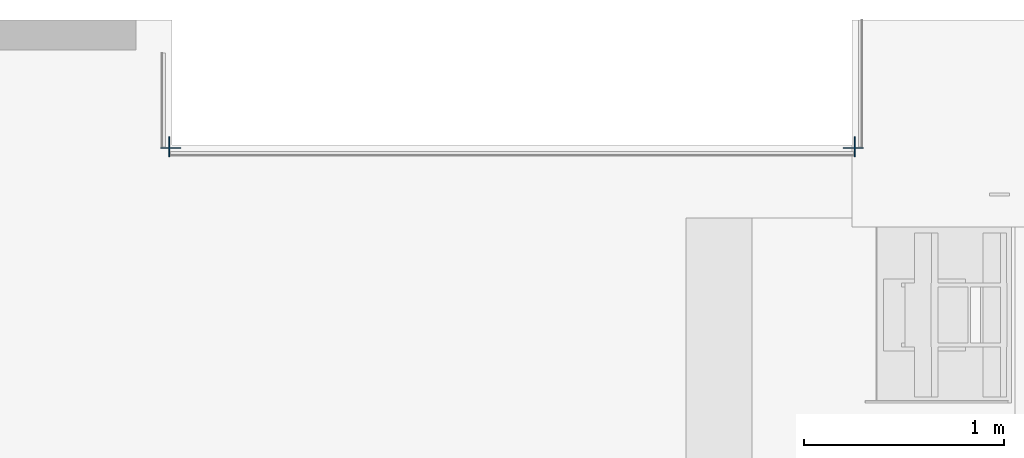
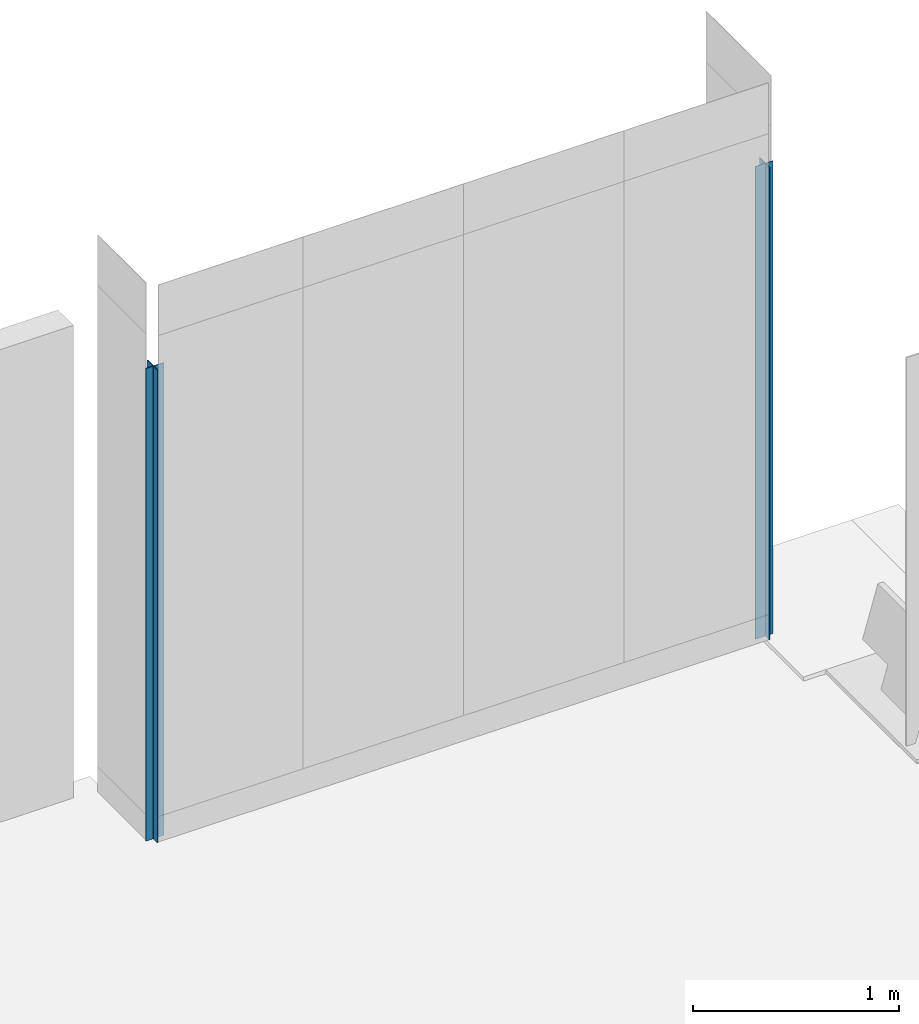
# One storey, part 3 of 14: 2 columns.
"""IFC2X3 building model written with IfcOpenShell, lengths in millimetres."""

from ifc_helpers import new_model, entity, si_unit, converted_unit, derived_unit, direction, frame, frame_2d, origin, origin_with_axes, place, context, subcontext, project, spatial, polyline, circle_curve, parameter, trimmed, segment, composite_curve, outline, extrude, source, transform, mapped, material, type_object, element, save


model = new_model("IFC2X3")

# Units and contexts
model_context = context("Model", 3, precision=0.01, world=frame((0.0, 4.29681676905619e-09, 0.0)), true_north=direction((4.01073788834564e-13, 1.0)))
plan_context = context("Plan", 3, precision=0.01, world=frame((0.0, 4.29681676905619e-09, 0.0)), true_north=direction((4.01073788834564e-13, 1.0)))
body_context = subcontext(model_context, "Body", "Model", "MODEL_VIEW")
ifc_project = project(units=[converted_unit("PLANEANGLEUNIT", "DEGREE", entity("IfcPositiveLengthMeasure", 0.0174532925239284), si_unit("PLANEANGLEUNIT", "RADIAN"), dimensions=[0, 0, 0, 0, 0, 0, 0]), si_unit("AREAUNIT", "SQUARE_METRE"), si_unit("LENGTHUNIT", "METRE", prefix="MILLI"), si_unit("MASSUNIT", "GRAM", prefix="KILO"), si_unit("POWERUNIT", "WATT"), si_unit("PRESSUREUNIT", "PASCAL"), si_unit("FORCEUNIT", "NEWTON", prefix="KILO"), si_unit("ELECTRICVOLTAGEUNIT", "VOLT"), si_unit("ELECTRICCURRENTUNIT", "AMPERE"), si_unit("THERMODYNAMICTEMPERATUREUNIT", "DEGREE_CELSIUS"), si_unit("TIMEUNIT", "SECOND"), si_unit("VOLUMEUNIT", "CUBIC_METRE"), derived_unit("LINEARVELOCITYUNIT", [(si_unit("LENGTHUNIT", "METRE"), 1), (si_unit("TIMEUNIT", "SECOND"), -1)]), derived_unit("VOLUMETRICFLOWRATEUNIT", [(si_unit("VOLUMEUNIT", "CUBIC_METRE"), 1), (si_unit("TIMEUNIT", "SECOND"), -1)]), derived_unit("THERMALTRANSMITTANCEUNIT", [(si_unit("POWERUNIT", "WATT"), 1), (si_unit("THERMODYNAMICTEMPERATUREUNIT", "KELVIN"), -1), (si_unit("AREAUNIT", "SQUARE_METRE"), -1)]), derived_unit("SOUNDPRESSUREUNIT", [(si_unit("PRESSUREUNIT", "PASCAL"), 1)])], contexts=[model_context, plan_context])

# Site, building, storey
site_placement = place(None, origin_with_axes())
site = spatial("IfcSite", under=ifc_project, at=site_placement, Name="ENGM", CompositionType="ELEMENT")
building_placement = place(site_placement, origin_with_axes())
building = spatial("IfcBuilding", under=site, at=building_placement, Name="TI", CompositionType="ELEMENT")
storey_placement = place(building_placement, frame((0.0, 0.0, 210900.0), z_axis=(0.0, 0.0, 1.0), x_axis=(1.0, 0.0, 0.0)))
storey = spatial("IfcBuildingStorey", under=building, at=storey_placement, Name="Nivå F", CompositionType="ELEMENT", Elevation=210900.0)

# Columns
ifc_material = material(Name="_NSW Aluminium")
column_type_1 = type_object("IfcColumnType", Name="A222 - Ekstrudert Aluminiumsprofil - Hjørneprofil - Hel:A222 - Ekstrudert Aluminiumsprofil", PredefinedType="COLUMN", material=ifc_material)
shared_shape_1 = source(origin(), body_context, "Body", "SweptSolid", [
    extrude(outline(composite_curve([segment(polyline([(-42.1761976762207, 2.82981407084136), (-42.1761976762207, 1.78160499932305)]), True, "CONTINUOUS"), segment(trimmed(circle_curve(frame_2d((-39.2244067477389, 1.78160499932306), x_axis=(0.0, -1.0)), 2.95179092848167), [parameter(270.0)], [parameter(3.05333249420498e-13)], True, "PARAMETER"), True, "CONTINUOUS"), segment(polyline([(-39.2244067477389, -1.17018592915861), (-2.17494075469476, -1.1701859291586)]), True, "CONTINUOUS"), segment(trimmed(circle_curve(frame_2d((-2.17494075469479, -2.16892900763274), x_axis=(0.0, -1.0)), 0.998743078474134), [parameter(90.0000000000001)], [parameter(180.0)], True, "PARAMETER"), False, "CONTINUOUS"), segment(polyline([(-1.17619767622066, -2.16892900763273), (-1.17619767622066, -39.1789731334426)]), True, "CONTINUOUS"), segment(trimmed(circle_curve(frame_2d((1.81501511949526, -39.1789731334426), x_axis=(0.0, -1.0)), 2.99121279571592), [parameter(270.0)], [parameter(3.56222124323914e-13)], True, "PARAMETER"), True, "CONTINUOUS"), segment(polyline([(1.81501511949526, -42.1701859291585), (2.82380232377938, -42.1701859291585)]), True, "CONTINUOUS"), segment(polyline([(2.82380232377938, -42.1701859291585), (2.82380232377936, -2.20446749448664)]), True, "CONTINUOUS"), segment(trimmed(circle_curve(frame_2d((3.85808388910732, -2.20446749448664), x_axis=(0.0, -1.0)), 1.03428156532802), [parameter(180.0)], [parameter(270.0)], True, "PARAMETER"), False, "CONTINUOUS"), segment(polyline([(3.85808388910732, -1.17018592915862), (57.8238023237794, -1.1701859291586)]), True, "CONTINUOUS"), segment(polyline([(57.8238023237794, -1.1701859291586), (57.8238023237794, 2.82981407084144)]), True, "CONTINUOUS"), segment(polyline([(57.8238023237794, 2.82981407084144), (2.82380232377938, 2.82981407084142)]), True, "CONTINUOUS"), segment(polyline([(2.82380232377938, 2.82981407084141), (2.82380232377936, 57.8298140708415)]), True, "CONTINUOUS"), segment(polyline([(2.82380232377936, 57.8298140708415), (-1.17619767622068, 57.8298140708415)]), True, "CONTINUOUS"), segment(polyline([(-1.17619767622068, 57.8298140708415), (-1.17619767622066, 3.81299578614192)]), True, "CONTINUOUS"), segment(trimmed(circle_curve(frame_2d((-2.15937939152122, 3.81299578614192), x_axis=(0.0, -1.0)), 0.983181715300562), [parameter(0.0)], [parameter(90.0000000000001)], True, "PARAMETER"), False, "CONTINUOUS"), segment(polyline([(-2.15937939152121, 2.82981407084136), (-42.1761976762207, 2.82981407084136)]), True, "CONTINUOUS")], self_intersect=False)), frame((17.8298140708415, 17.8238023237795, 210900.0), z_axis=(0.0, 0.0, -1.0), x_axis=(0.0, -1.0, 0.0)), (0.0, 0.0, -1.0), 2799.99999999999),
])
column_1_placement = place(storey_placement, frame((607902.006836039, 698851.99999989, -210900.0), z_axis=(0.0, 0.0, 1.0), x_axis=(-1.0, 0.0, 0.0)))
element("IfcColumn", 1, at=column_1_placement, inside=storey, type_object=column_type_1, material=ifc_material, Name="A222 - Ekstrudert Aluminiumsprofil - Hjørneprofil - Hel:A222 - Ekstrudert Aluminiumsprofil", ObjectType="A222 - Ekstrudert Aluminiumsprofil - Hjørneprofil - Hel:A222 - Ekstrudert Aluminiumsprofil", context=body_context, shape_type="MappedRepresentation", body=[
    mapped(shared_shape_1, transform((0.0, 0.0, 0.0), scale=1.0)),
])
column_type_2 = type_object("IfcColumnType", Name="A222 - Ekstrudert Aluminiumsprofil - Hjørneprofil - Hel:A222 - Ekstrudert Aluminiumsprofil", PredefinedType="COLUMN", material=ifc_material)
shared_shape_2 = source(origin(), body_context, "Body", "SweptSolid", [
    extrude(outline(composite_curve([segment(polyline([(-2.82981407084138, -42.1761976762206), (-1.78160499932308, -42.1761976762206)]), True, "CONTINUOUS"), segment(trimmed(circle_curve(frame_2d((-1.78160499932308, -39.2244067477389), x_axis=(1.0, 0.0)), 2.95179092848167), [parameter(270.0)], [parameter(3.05333249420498e-13)], True, "PARAMETER"), True, "CONTINUOUS"), segment(polyline([(1.17018592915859, -39.2244067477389), (1.17018592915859, -2.17494075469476)]), True, "CONTINUOUS"), segment(trimmed(circle_curve(frame_2d((2.16892900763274, -2.17494075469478), x_axis=(1.0, 0.0)), 0.998743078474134), [parameter(90.0000000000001)], [parameter(180.0)], True, "PARAMETER"), False, "CONTINUOUS"), segment(polyline([(2.16892900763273, -1.17619767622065), (39.1789731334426, -1.17619767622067)]), True, "CONTINUOUS"), segment(trimmed(circle_curve(frame_2d((39.1789731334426, 1.81501511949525), x_axis=(1.0, 0.0)), 2.99121279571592), [parameter(270.0)], [parameter(3.56222124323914e-13)], True, "PARAMETER"), True, "CONTINUOUS"), segment(polyline([(42.1701859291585, 1.81501511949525), (42.1701859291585, 2.82380232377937)]), True, "CONTINUOUS"), segment(polyline([(42.1701859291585, 2.82380232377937), (2.20446749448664, 2.82380232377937)]), True, "CONTINUOUS"), segment(trimmed(circle_curve(frame_2d((2.20446749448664, 3.85808388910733), x_axis=(1.0, 0.0)), 1.03428156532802), [parameter(180.0)], [parameter(270.0)], True, "PARAMETER"), False, "CONTINUOUS"), segment(polyline([(1.17018592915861, 3.85808388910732), (1.17018592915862, 57.8238023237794)]), True, "CONTINUOUS"), segment(polyline([(1.17018592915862, 57.8238023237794), (-2.82981407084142, 57.8238023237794)]), True, "CONTINUOUS"), segment(polyline([(-2.82981407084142, 57.8238023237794), (-2.82981407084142, 2.82380232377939)]), True, "CONTINUOUS"), segment(polyline([(-2.82981407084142, 2.82380232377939), (-57.8298140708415, 2.82380232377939)]), True, "CONTINUOUS"), segment(polyline([(-57.8298140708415, 2.82380232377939), (-57.8298140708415, -1.17619767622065)]), True, "CONTINUOUS"), segment(polyline([(-57.8298140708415, -1.17619767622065), (-3.81299578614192, -1.17619767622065)]), True, "CONTINUOUS"), segment(trimmed(circle_curve(frame_2d((-3.81299578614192, -2.15937939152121), x_axis=(1.0, 0.0)), 0.983181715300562), [parameter(0.0)], [parameter(90.0000000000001)], True, "PARAMETER"), False, "CONTINUOUS"), segment(polyline([(-2.82981407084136, -2.15937939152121), (-2.82981407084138, -42.1761976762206)]), True, "CONTINUOUS")], self_intersect=False)), frame((17.8298140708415, -17.8238023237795, 210900.0)), (0.0, 0.0, 1.0), 2799.99999999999),
])
column_2_placement = place(storey_placement, frame((611298.006836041, 698851.999999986, -210900.0), z_axis=(0.0, 0.0, 1.0), x_axis=(1.0, 0.0, 0.0)))
element("IfcColumn", 2, at=column_2_placement, inside=storey, type_object=column_type_2, material=ifc_material, Name="A222 - Ekstrudert Aluminiumsprofil - Hjørneprofil - Hel:A222 - Ekstrudert Aluminiumsprofil", ObjectType="A222 - Ekstrudert Aluminiumsprofil - Hjørneprofil - Hel:A222 - Ekstrudert Aluminiumsprofil", context=body_context, shape_type="MappedRepresentation", body=[
    mapped(shared_shape_2, transform((0.0, 0.0, 0.0), scale=1.0)),
])

save(model, "model.ifc")
